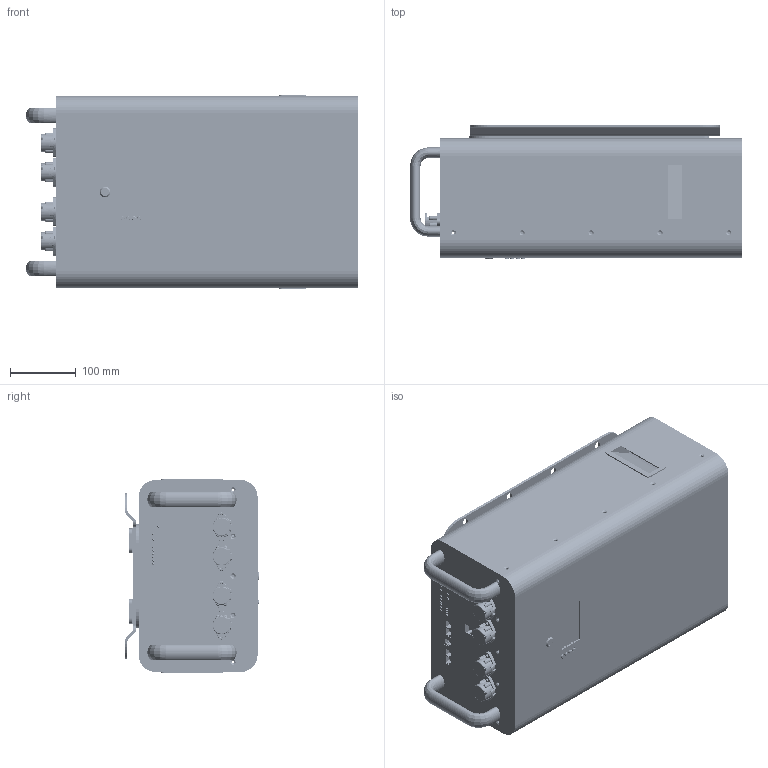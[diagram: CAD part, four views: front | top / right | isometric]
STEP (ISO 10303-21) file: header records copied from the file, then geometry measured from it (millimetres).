
FILE_DESCRIPTION((''),'2;1');
FILE_NAME('48V670919_ASM','2023-09-20T20:29:30',('zhoup'),(''),'CREO PARAMETRIC BY PTC INC, 2023073','CREO PARAMETRIC BY PTC INC, 2023073','');
FILE_SCHEMA(('AUTOMOTIVE_DESIGN { 1 0 10303 214 1 1 1 1 }'));
Products named in the file (38): 20230309_BJPK_91690001; 2023091900; 02919000; XSP-333-PCB_1_1_1919; XSP-333-PCB_1_2_1919; XSP-333-PCB_1_3_1919; XSP-333-PCB_1_4_1919; XSP-333-PCB_1_ASM_1919_ASM; XK-AJKG-DZ_2_1919; XK-ANKG-AJM_2_1919; XK-ANKG_ASM_1_ASM_1919_ASM; XSP_1_1919; TZ_1_1919; XSP-6333_ASM_2_ASM_1919_ASM; BMSXIANSHIPING_ASM_1919_ASM; 4PCB_63339190001_ASM; 120MMK_9169190001; 1291900; SST21-447-REV1_7; XSP-6333_ASM_2_ASM_1_ASM_1_ASM; BMSXIANSHIPING_ASM_1_ASM_1_ASM; LCD-SCREEN_ASM_1_ASM; SST21-447-REV1-ASSY_ASM_4_ASM; SST19-247B-REV1-20220210_2_919; ACTB142-D_BODY_14_916919; SUS_TUBE_4_916919; ACTB142-D-GAP2_28_916919; ACTB142-D-M6DLT_2_916919; P3200001_3_916919; ACTB142-D-M6_ASM_4_916919_ASM; DINXINZHIJIA01919; DXATIAO01; DIANXINMOZU0919_ASM; GONGZI20230919; _BJPK_9160001; 2023092000; 202309190100; 48V670919_ASM
Assembly tree (50 placements, depth 6):
  48V670919_ASM
    20230309_BJPK_91690001
    2023091900
    02919000
    4PCB_63339190001_ASM
      BMSXIANSHIPING_ASM_1919_ASM
        XSP-6333_ASM_2_ASM_1919_ASM
          XSP-333-PCB_1_ASM_1919_ASM
            XSP-333-PCB_1_1_1919
            XSP-333-PCB_1_2_1919
            XSP-333-PCB_1_3_1919
            XSP-333-PCB_1_4_1919
          XK-ANKG_ASM_1_ASM_1919_ASM  x4
            XK-AJKG-DZ_2_1919
            XK-ANKG-AJM_2_1919
          XSP_1_1919
          TZ_1_1919  x4
    120MMK_9169190001  x2
    1291900
    SST21-447-REV1-ASSY_ASM_4_ASM
      SST21-447-REV1_7
      LCD-SCREEN_ASM_1_ASM
        BMSXIANSHIPING_ASM_1_ASM_1_ASM
          XSP-6333_ASM_2_ASM_1_ASM_1_ASM
    SST19-247B-REV1-20220210_2_919
    ACTB142-D-M6_ASM_4_916919_ASM  x4
      ACTB142-D_BODY_14_916919
      SUS_TUBE_4_916919
      ACTB142-D-GAP2_28_916919
      ACTB142-D-M6DLT_2_916919
      P3200001_3_916919
    DIANXINMOZU0919_ASM
      DINXINZHIJIA01919
      DXATIAO01  x2
    GONGZI20230919
    _BJPK_9160001  x2
    2023092000
    202309190100
Bounding box: 506 x 204.97 x 297 mm (x, y, z)
Volume: 2125024.3 mm3; surface area: 2133292.3 mm2
Topology: 61 solids, 71 shells, 4822 faces, 12748 edges, 8246 vertices
Faces by surface type: plane 2150, cylinder 1952, torus 248, cone 194, bspline 168, sphere 90, extrusion 12, revolution 8
Entity records: 122151 total; most frequent: CARTESIAN_POINT 24123, DIRECTION 15539, ORIENTED_EDGE 14154, EDGE_CURVE 7077, AXIS2_PLACEMENT_3D 5435, PRESENTATION_STYLE_ASSIGNMENT 5061, STYLED_ITEM 5054, VERTEX_POINT 4640
